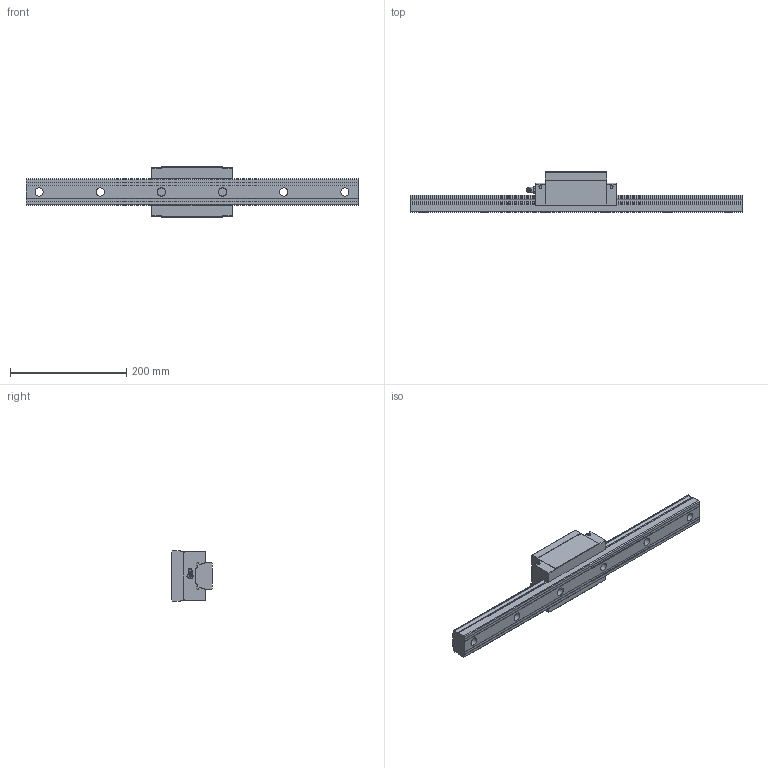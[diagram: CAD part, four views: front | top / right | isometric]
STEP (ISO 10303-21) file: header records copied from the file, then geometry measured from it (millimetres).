
FILE_DESCRIPTION(/* description */ ('STEP AP203'),/* implementation_level */ '2;1');
FILE_NAME(/* name */ 'SVR45RH1SS-570L_G22-5_0_B-PT18_215-9_0_0_01',/* time_stamp */ '2024-05-17T07:28:30+02:00',/* author */ ('License CC BY-ND 4.0'),/* organization */ ('CADENAS'),/* preprocessor_version */ 'ST-DEVELOPER v19.3',/* originating_system */ 'PARTsolutions',/* authorisation */ ' ');
FILE_SCHEMA (('CONFIG_CONTROL_DESIGN'));
Length unit declared in the file: millimetre
Products named in the file (4): SVR45RH1SS-570L_G22-5_0_B-PT18_215-9_0_0_01; SVR 45RH57022.5 R Track; SVR 45RH1SSB-PT1/81 Slide; B-PT1/8_grease_nipple_joint1_SVR
Assembly tree (3 placements, depth 2):
  SVR45RH1SS-570L_G22-5_0_B-PT18_215-9_0_0_01
    SVR 45RH57022.5 R Track
    SVR 45RH1SSB-PT1/81 Slide
    B-PT1/8_grease_nipple_joint1_SVR
Bounding box: 570 x 70 x 86 mm (x, y, z)
Volume: 1176523.1 mm3; surface area: 151355.5 mm2
Topology: 3 solids, 3 shells, 185 faces, 488 edges, 321 vertices
Faces by surface type: plane 99, cylinder 61, cone 20, torus 3, sphere 2
Full cylindrical faces by diameter (mm): 5.2 x4, 8.376 x4, 9.6 x1, 14 x6, 20 x6
Entity records: 5546 total; most frequent: CARTESIAN_POINT 1048, DIRECTION 920, ORIENTED_EDGE 846, EDGE_CURVE 423, AXIS2_PLACEMENT_3D 335, VERTEX_POINT 308, FACE_BOUND 261, EDGE_LOOP 255
